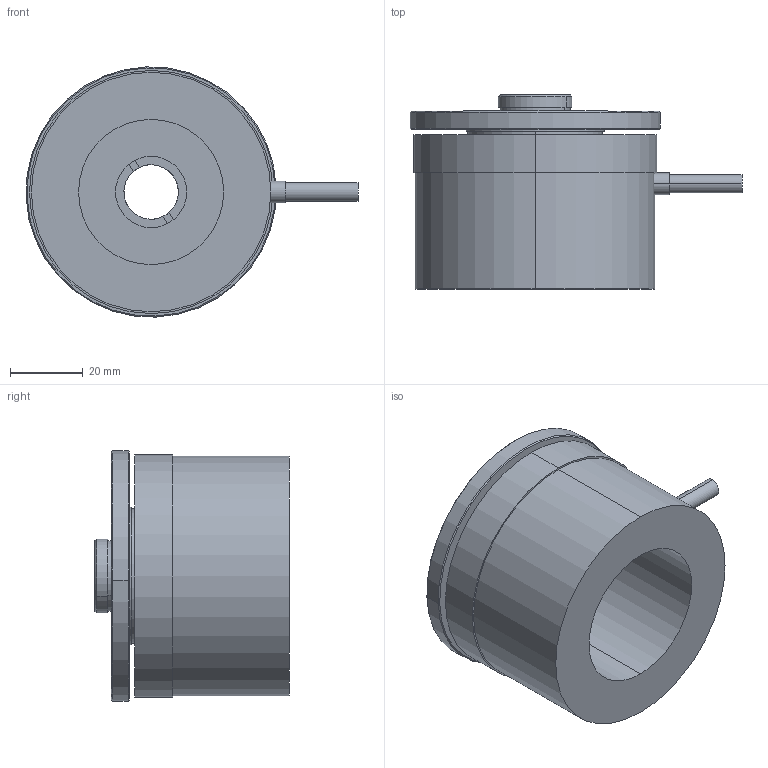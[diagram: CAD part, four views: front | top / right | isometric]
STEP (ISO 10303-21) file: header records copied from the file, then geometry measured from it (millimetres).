
FILE_DESCRIPTION (( 'STEP AP203' ), '1' );
FILE_NAME ('P76.Z70带转接件（上RMS下RMS螺纹）三维图2024.08.12.STEP', '2024-08-12T02:48:29', ( '微软用户' ), ( '微软中国' ), 'SwSTEP 2.0', 'SolidWorks 2016', '' );
FILE_SCHEMA (( 'CONFIG_CONTROL_DESIGN' ));
Length unit declared in the file: millimetre
Products named in the file (4): P76.Z70带转接件（上RMS下RMS螺纹）三维图2024.08.12; P76俋窒蹟恇蛌諉A_(N)W0.8*1-36"-(D)15; P76标准尺寸三维图_P76.Z70  P76.Z100-W0.8*1-36"; P76俋窒蹟恇蛌諉B_P76.Z70  P76.Z100
Assembly tree (3 placements, depth 2):
  P76.Z70带转接件（上RMS下RMS螺纹）三维图2024.08.12
    P76标准尺寸三维图_P76.Z70  P76.Z100-W0.8*1-36"
    P76俋窒蹟恇蛌諉A_(N)W0.8*1-36"-(D)15
    P76俋窒蹟恇蛌諉B_P76.Z70  P76.Z100
Bounding box: 91.48 x 53.5 x 68.96 mm (x, y, z)
Volume: 118911.2 mm3; surface area: 32685.8 mm2
Topology: 4 solids, 4 shells, 75 faces, 163 edges, 106 vertices
Faces by surface type: cylinder 39, plane 28, cone 8
Entity records: 2511 total; most frequent: DIRECTION 419, CARTESIAN_POINT 350, ORIENTED_EDGE 326, AXIS2_PLACEMENT_3D 175, EDGE_CURVE 163, VERTEX_POINT 106, CIRCLE 94, EDGE_LOOP 91
